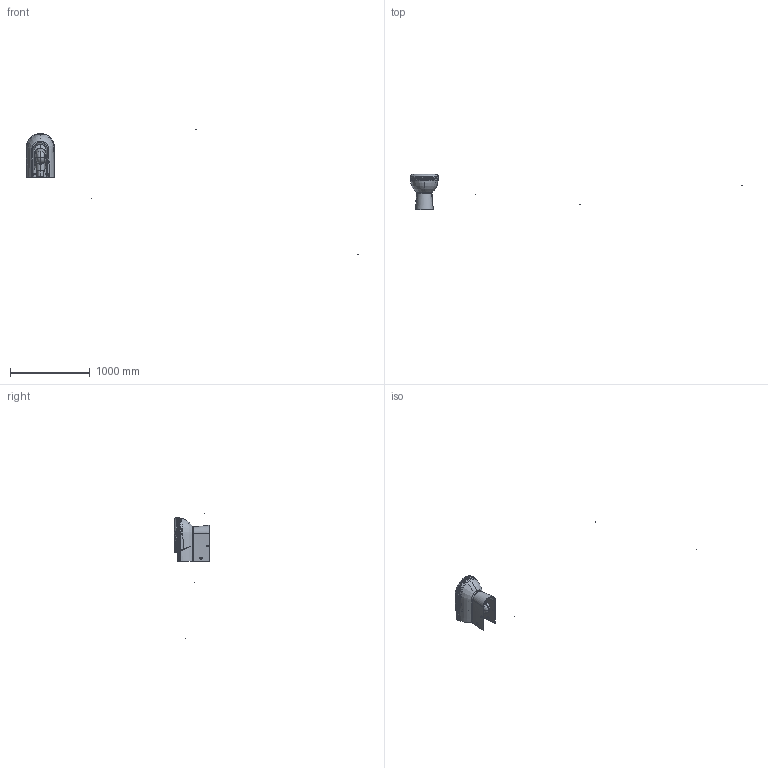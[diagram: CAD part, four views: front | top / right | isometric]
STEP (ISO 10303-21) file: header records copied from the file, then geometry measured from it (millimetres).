
FILE_DESCRIPTION (( 'STEP AP203' ), '1' );
FILE_NAME ('SL350-00CB00E-0000-KC2203.01.0000E.STEP', '2022-10-27T08:09:07', ( '' ), ( '' ), 'SwSTEP 2.0', 'SolidWorks 2021', '' );
FILE_SCHEMA (( 'CONFIG_CONTROL_DESIGN' ));
Products named in the file (1): SL350-00CB00E-0000-KC2203.01.0000E
Bounding box: 4167.65 x 444.5 x 1567.2 mm (x, y, z)
Volume: 12398482.3 mm3; surface area: 2112868.6 mm2
Topology: 31 solids, 31 shells, 1479 faces, 3647 edges, 2224 vertices
Faces by surface type: cylinder 630, bspline 410, plane 241, torus 106, sphere 58, cone 34
Entity records: 291406 total; most frequent: CARTESIAN_POINT 261132, ORIENTED_EDGE 7210, DIRECTION 5058, EDGE_CURVE 3605, VERTEX_POINT 2224, AXIS2_PLACEMENT_3D 1983, EDGE_LOOP 1545, ADVANCED_FACE 1479
